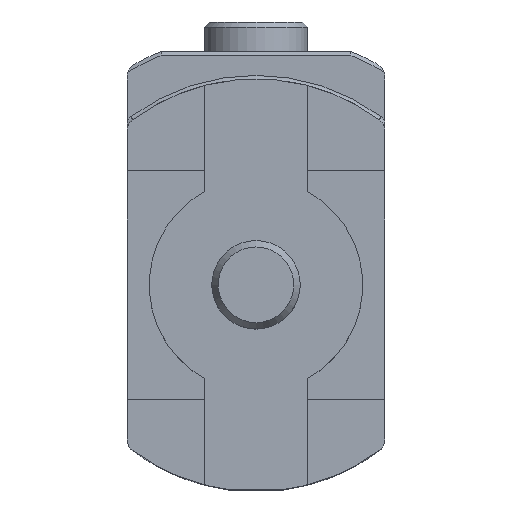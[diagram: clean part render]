
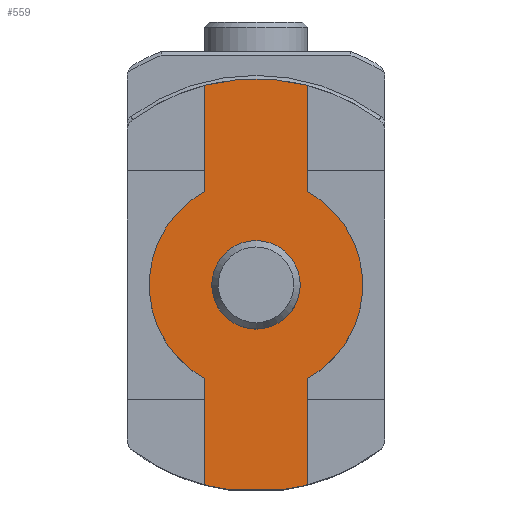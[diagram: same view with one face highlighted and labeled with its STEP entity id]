
A CAD part, top view. The second image highlights one B-rep face of the part: STEP entity #559.
In plain terms, the highlighted planar face has unit normal (0, 0, 1).
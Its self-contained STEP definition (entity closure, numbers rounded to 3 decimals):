
#4 = EDGE_LOOP ( 'NONE', ( #102 ) ) ;
#19 = CARTESIAN_POINT ( 'NONE',  ( -7., 12.698, 45.5 ) ) ;
#35 = DIRECTION ( 'NONE',  ( 0., 0., 1. ) ) ;
#48 = VERTEX_POINT ( 'NONE', #2539 ) ;
#75 = CARTESIAN_POINT ( 'NONE',  ( -3.733, -27.75, 45.5 ) ) ;
#78 = LINE ( 'NONE', #1626, #2114 ) ;
#102 = ORIENTED_EDGE ( 'NONE', *, *, #747, .F. ) ;
#120 = CIRCLE ( 'NONE', #1923, 28. ) ;
#148 = VERTEX_POINT ( 'NONE', #1597 ) ;
#174 = EDGE_CURVE ( 'NONE', #2174, #48, #1990, .T. ) ;
#199 = LINE ( 'NONE', #1237, #2241 ) ;
#205 = DIRECTION ( 'NONE',  ( 0., -1., 0. ) ) ;
#211 = DIRECTION ( 'NONE',  ( 0., 1., 0. ) ) ;
#242 = EDGE_CURVE ( 'NONE', #48, #148, #1822, .T. ) ;
#250 = ORIENTED_EDGE ( 'NONE', *, *, #174, .T. ) ;
#266 = ORIENTED_EDGE ( 'NONE', *, *, #1013, .T. ) ;
#291 = CIRCLE ( 'NONE', #2159, 5. ) ;
#372 = AXIS2_PLACEMENT_3D ( 'NONE', #1461, #688, #2459 ) ;
#434 = ORIENTED_EDGE ( 'NONE', *, *, #458, .T. ) ;
#458 = EDGE_CURVE ( 'NONE', #1344, #1295, #1514, .T. ) ;
#478 = CARTESIAN_POINT ( 'NONE',  ( 5., 0., 45.5 ) ) ;
#540 = EDGE_CURVE ( 'NONE', #1893, #1344, #2153, .T. ) ;
#559 = ADVANCED_FACE ( 'NONE', ( #922, #695 ), #2277, .T. ) ;
#572 = CARTESIAN_POINT ( 'NONE',  ( 0., 0., 45.5 ) ) ;
#606 = DIRECTION ( 'NONE',  ( 0., -1., 0. ) ) ;
#628 = ORIENTED_EDGE ( 'NONE', *, *, #1553, .T. ) ;
#639 = DIRECTION ( 'NONE',  ( 1., 0., 0. ) ) ;
#655 = CARTESIAN_POINT ( 'NONE',  ( 7., -12.698, 45.5 ) ) ;
#668 = DIRECTION ( 'NONE',  ( 0., 0., 1. ) ) ;
#688 = DIRECTION ( 'NONE',  ( 0., 0., 1. ) ) ;
#695 = FACE_OUTER_BOUND ( 'NONE', #1590, .T. ) ;
#734 = CARTESIAN_POINT ( 'NONE',  ( -7., 27.111, 45.5 ) ) ;
#747 = EDGE_CURVE ( 'NONE', #2260, #2260, #291, .T. ) ;
#805 = DIRECTION ( 'NONE',  ( 1., 0., 0. ) ) ;
#884 = CIRCLE ( 'NONE', #372, 14.5 ) ;
#922 = FACE_BOUND ( 'NONE', #4, .T. ) ;
#995 = CIRCLE ( 'NONE', #1122, 14.5 ) ;
#1013 = EDGE_CURVE ( 'NONE', #2044, #2424, #120, .T. ) ;
#1053 = CARTESIAN_POINT ( 'NONE',  ( 7., 12.698, 45.5 ) ) ;
#1122 = AXIS2_PLACEMENT_3D ( 'NONE', #2422, #668, #639 ) ;
#1154 = LINE ( 'NONE', #75, #1324 ) ;
#1237 = CARTESIAN_POINT ( 'NONE',  ( 7., -27.111, 45.5 ) ) ;
#1261 = DIRECTION ( 'NONE',  ( 0., 0., 1. ) ) ;
#1275 = DIRECTION ( 'NONE',  ( 1., 0., 0. ) ) ;
#1295 = VERTEX_POINT ( 'NONE', #1301 ) ;
#1301 = CARTESIAN_POINT ( 'NONE',  ( -7., 12.698, 45.5 ) ) ;
#1324 = VECTOR ( 'NONE', #1275, 1000. ) ;
#1344 = VERTEX_POINT ( 'NONE', #734 ) ;
#1346 = CARTESIAN_POINT ( 'NONE',  ( 0., 0., 45.5 ) ) ;
#1387 = CARTESIAN_POINT ( 'NONE',  ( -7., -27.111, 45.5 ) ) ;
#1443 = ORIENTED_EDGE ( 'NONE', *, *, #540, .T. ) ;
#1461 = CARTESIAN_POINT ( 'NONE',  ( 0., 0., 45.5 ) ) ;
#1463 = ORIENTED_EDGE ( 'NONE', *, *, #2576, .T. ) ;
#1473 = DIRECTION ( 'NONE',  ( 1., 0., 0. ) ) ;
#1514 = LINE ( 'NONE', #19, #2286 ) ;
#1530 = VECTOR ( 'NONE', #606, 1000. ) ;
#1553 = EDGE_CURVE ( 'NONE', #2424, #1973, #199, .T. ) ;
#1560 = DIRECTION ( 'NONE',  ( 1., 0., 0. ) ) ;
#1590 = EDGE_LOOP ( 'NONE', ( #2527, #2269, #1443, #434, #1463, #250, #1975, #1921, #266, #628 ) ) ;
#1597 = CARTESIAN_POINT ( 'NONE',  ( -3.733, -27.75, 45.5 ) ) ;
#1626 = CARTESIAN_POINT ( 'NONE',  ( 7., 12.698, 45.5 ) ) ;
#1641 = VERTEX_POINT ( 'NONE', #1053 ) ;
#1678 = EDGE_CURVE ( 'NONE', #148, #2044, #1154, .T. ) ;
#1737 = DIRECTION ( 'NONE',  ( 0., 0., 1. ) ) ;
#1764 = CARTESIAN_POINT ( 'NONE',  ( 7., 27.111, 45.5 ) ) ;
#1778 = CARTESIAN_POINT ( 'NONE',  ( 0., 0., 45.5 ) ) ;
#1822 = CIRCLE ( 'NONE', #2402, 28. ) ;
#1893 = VERTEX_POINT ( 'NONE', #1764 ) ;
#1921 = ORIENTED_EDGE ( 'NONE', *, *, #1678, .T. ) ;
#1923 = AXIS2_PLACEMENT_3D ( 'NONE', #1346, #1737, #805 ) ;
#1946 = CARTESIAN_POINT ( 'NONE',  ( 0., 0., 45.5 ) ) ;
#1973 = VERTEX_POINT ( 'NONE', #655 ) ;
#1975 = ORIENTED_EDGE ( 'NONE', *, *, #242, .T. ) ;
#1988 = DIRECTION ( 'NONE',  ( 1., 0., 0. ) ) ;
#1990 = LINE ( 'NONE', #1387, #1530 ) ;
#2044 = VERTEX_POINT ( 'NONE', #2071 ) ;
#2046 = CARTESIAN_POINT ( 'NONE',  ( -7., -12.698, 45.5 ) ) ;
#2065 = DIRECTION ( 'NONE',  ( 0., 1., 0. ) ) ;
#2071 = CARTESIAN_POINT ( 'NONE',  ( 3.733, -27.75, 45.5 ) ) ;
#2073 = AXIS2_PLACEMENT_3D ( 'NONE', #2081, #35, #2219 ) ;
#2081 = CARTESIAN_POINT ( 'NONE',  ( 0., 0., 45.5 ) ) ;
#2114 = VECTOR ( 'NONE', #2065, 1000. ) ;
#2122 = DIRECTION ( 'NONE',  ( 0., 0., 1. ) ) ;
#2153 = CIRCLE ( 'NONE', #2243, 28. ) ;
#2159 = AXIS2_PLACEMENT_3D ( 'NONE', #1946, #2122, #1560 ) ;
#2169 = EDGE_CURVE ( 'NONE', #1641, #1893, #78, .T. ) ;
#2174 = VERTEX_POINT ( 'NONE', #2046 ) ;
#2192 = DIRECTION ( 'NONE',  ( 0., 0., 1. ) ) ;
#2195 = CARTESIAN_POINT ( 'NONE',  ( 7., -27.111, 45.5 ) ) ;
#2208 = EDGE_CURVE ( 'NONE', #1973, #1641, #995, .T. ) ;
#2219 = DIRECTION ( 'NONE',  ( 1., 0., 0. ) ) ;
#2241 = VECTOR ( 'NONE', #211, 1000. ) ;
#2243 = AXIS2_PLACEMENT_3D ( 'NONE', #1778, #2192, #1988 ) ;
#2260 = VERTEX_POINT ( 'NONE', #478 ) ;
#2269 = ORIENTED_EDGE ( 'NONE', *, *, #2169, .T. ) ;
#2277 = PLANE ( 'NONE',  #2073 ) ;
#2286 = VECTOR ( 'NONE', #205, 1000. ) ;
#2402 = AXIS2_PLACEMENT_3D ( 'NONE', #572, #1261, #1473 ) ;
#2422 = CARTESIAN_POINT ( 'NONE',  ( 0., 0., 45.5 ) ) ;
#2424 = VERTEX_POINT ( 'NONE', #2195 ) ;
#2459 = DIRECTION ( 'NONE',  ( 1., 0., 0. ) ) ;
#2527 = ORIENTED_EDGE ( 'NONE', *, *, #2208, .T. ) ;
#2539 = CARTESIAN_POINT ( 'NONE',  ( -7., -27.111, 45.5 ) ) ;
#2576 = EDGE_CURVE ( 'NONE', #1295, #2174, #884, .T. ) ;
